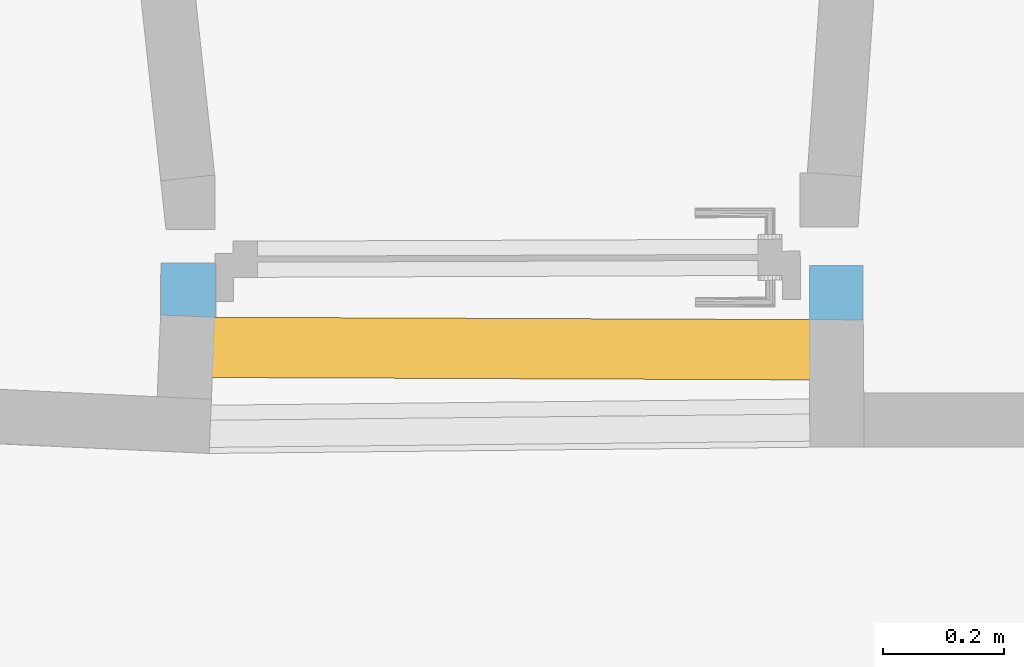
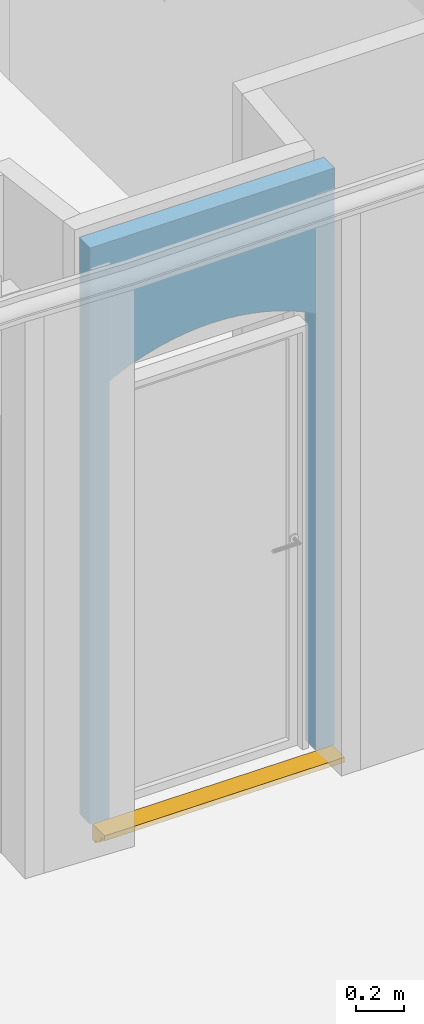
# One storey, part 92 of 133: 1 window, 1 opening, plus 1 element that does not belong to this part.
"""IFC2X3 building model written with IfcOpenShell, lengths in centimetres."""

import ifcopenshell
import ifcopenshell.guid

model = None  # the IFC model being written
_history = None  # IfcOwnerHistory: only IFC2X3 demands one
_inside = {}  # id of a spatial element -> (the spatial element, [elements in it])
_under = {}  # id of a project, library or spatial element -> (it, [spatial elements below it])
_declared = {}  # id of a project -> (the project, [libraries it declares])
_typed = {}  # id of a type object -> (the type object, [elements of that type])
_made_of = {}  # id of a material, layer set ... -> (it, [elements and type objects made of it])


def new_model(schema):
    """Start an empty IFC model of exactly this schema.

    Asked for "IFC4X3", IfcOpenShell would pick the latest addendum, in which some entities
    have other attributes; the version numbers below select the first issue.
    IFC2X3 requires an IfcOwnerHistory on every rooted entity: one is made here for all.
    """
    global model, _history
    if schema == "IFC4X3":
        model = ifcopenshell.file(schema_version=(4, 3, 0, 0))
    else:
        model = ifcopenshell.file(schema=schema)
    _inside.clear()
    _under.clear()
    _declared.clear()
    _typed.clear()
    _made_of.clear()
    _history = None
    if model.schema == "IFC2X3":
        org = make("IfcOrganization", Name="unknown")
        user = make(
            "IfcPersonAndOrganization",
            ThePerson=make("IfcPerson", FamilyName="unknown"),
            TheOrganization=org,
        )
        app = make(
            "IfcApplication",
            ApplicationDeveloper=org,
            Version="unknown",
            ApplicationFullName="unknown",
            ApplicationIdentifier="unknown",
        )
        _history = make(
            "IfcOwnerHistory",
            OwningUser=user,
            OwningApplication=app,
            ChangeAction="ADDED",
            CreationDate=0,
        )
    return model


def make(cls, **values):
    """One entity of the class cls with the attributes given. An attribute that is None is left unset."""
    return model.create_entity(
        cls, **{name: value for name, value in values.items() if value is not None}
    )


def entity(cls, *values):
    """Any entity or typed value of the class cls, its attributes in the order of the schema. None: left unset."""
    e = model.create_entity(cls)
    for i, value in enumerate(values):
        if value is not None:
            e[i] = value
    return e


def rooted(cls, **values):
    """An entity with a GlobalId (a new one), such as an element, a storey or a relation."""
    return make(cls, GlobalId=ifcopenshell.guid.new(), OwnerHistory=_history, **values)


def si_unit(unit_type, name, prefix=None):
    """IfcSIUnit, for example si_unit("LENGTHUNIT", "METRE", prefix="MILLI")."""
    return make("IfcSIUnit", UnitType=unit_type, Prefix=prefix, Name=name)


def converted_unit(unit_type, name, factor, base, dimensions=None, offset=None):
    """IfcConversionBasedUnit, such as the inch: factor (a typed value) times the base unit."""
    return make(
        "IfcConversionBasedUnit"
        if offset is None
        else "IfcConversionBasedUnitWithOffset",
        ConversionOffset=offset,
        Dimensions=None
        if dimensions is None
        else entity("IfcDimensionalExponents", *dimensions),
        UnitType=unit_type,
        Name=name,
        ConversionFactor=make(
            "IfcMeasureWithUnit", ValueComponent=factor, UnitComponent=base
        ),
    )


def assignment(units):
    """IfcUnitAssignment: the units of a project."""
    return None if units is None else make("IfcUnitAssignment", Units=units)


def point(xyz):
    """IfcCartesianPoint."""
    return None if xyz is None else make("IfcCartesianPoint", Coordinates=xyz)


def direction(xyz):
    """IfcDirection."""
    return None if xyz is None else make("IfcDirection", DirectionRatios=xyz)


def frame(location, z_axis=None, x_axis=None):
    """IfcAxis2Placement3D, a coordinate frame: its origin and axes. An axis left out is left unset."""
    return make(
        "IfcAxis2Placement3D",
        Location=point(location),
        Axis=direction(z_axis),
        RefDirection=direction(x_axis),
    )


def frame_2d(location, x_axis=None):
    """IfcAxis2Placement2D, a coordinate frame in the plane: its origin and x axis."""
    return make(
        "IfcAxis2Placement2D", Location=point(location), RefDirection=direction(x_axis)
    )


def origin():
    """The frame at (0, 0, 0) with its axes left unset."""
    return frame((0.0, 0.0, 0.0))


def origin_with_axes():
    """The frame at (0, 0, 0) with the z axis (0, 0, 1) and the x axis (1, 0, 0) written out."""
    return frame((0.0, 0.0, 0.0), z_axis=(0.0, 0.0, 1.0), x_axis=(1.0, 0.0, 0.0))


def origin_2d_with_axis():
    """The frame at (0, 0) in the plane with the x axis (1, 0) written out."""
    return frame_2d((0.0, 0.0), x_axis=(1.0, 0.0))


def place(relative_to, where):
    """IfcLocalPlacement: puts the frame where relative to a parent placement (None: the world)."""
    return make(
        "IfcLocalPlacement", PlacementRelTo=relative_to, RelativePlacement=where
    )


def context(
    kind, dimensions, precision=None, world=None, true_north=None, identifier=None
):
    """IfcGeometricRepresentationContext, for example the 3D "Model" context."""
    return make(
        "IfcGeometricRepresentationContext",
        ContextIdentifier=identifier,
        ContextType=kind,
        CoordinateSpaceDimension=dimensions,
        Precision=precision,
        WorldCoordinateSystem=world,
        TrueNorth=true_north,
    )


def subcontext(parent, identifier, kind, view, scale=None):
    """IfcGeometricRepresentationSubContext, for example "Body" below "Model"."""
    return make(
        "IfcGeometricRepresentationSubContext",
        ContextIdentifier=identifier,
        ContextType=kind,
        ParentContext=parent,
        TargetScale=scale,
        TargetView=view,
    )


def project(units=None, contexts=None):
    """IfcProject with its units and contexts."""
    return rooted(
        "IfcProject",
        Name="project",
        RepresentationContexts=contexts,
        UnitsInContext=assignment(units),
    )


def spatial(cls, under=None, at=None, **own):
    """A site, building, storey or space (cls), placed at a placement, below another one or the project."""
    s = rooted(cls, ObjectPlacement=at, **own)
    if under is not None:
        _under.setdefault(under.id(), (under, []))[1].append(s)
    return s


def polyline(points):
    """IfcPolyline through the points."""
    return make("IfcPolyline", Points=[point(p) for p in points])


def circle_curve(where, radius):
    """IfcCircle in the frame where."""
    return make("IfcCircle", Position=where, Radius=radius)


def trimmed(basis, trim1, trim2, sense, master):
    """IfcTrimmedCurve: the piece of a basis curve between two trims."""
    return make(
        "IfcTrimmedCurve",
        BasisCurve=basis,
        Trim1=trim1,
        Trim2=trim2,
        SenseAgreement=sense,
        MasterRepresentation=master,
    )


def segment(curve, same_sense, transition):
    """IfcCompositeCurveSegment."""
    return make(
        "IfcCompositeCurveSegment",
        Transition=transition,
        SameSense=same_sense,
        ParentCurve=curve,
    )


def composite_curve(segments, self_intersect=None):
    """IfcCompositeCurve: segments joined end to end."""
    return make("IfcCompositeCurve", Segments=segments, SelfIntersect=self_intersect)


def profile(cls, at=None, kind="AREA", **sizes):
    """A parametric profile (cls). Its sizes go by their IFC names, for example OverallWidth=200.0."""
    return make(cls, ProfileType=kind, Position=at, **sizes)


def rectangle(**sizes):
    """IfcRectangleProfileDef."""
    return profile("IfcRectangleProfileDef", **sizes)


def outline(outer, holes=None, kind="AREA"):
    """IfcArbitraryClosedProfileDef: a profile drawn as a closed curve; with holes, ...WithVoids."""
    if holes is None:
        return make("IfcArbitraryClosedProfileDef", ProfileType=kind, OuterCurve=outer)
    return make(
        "IfcArbitraryProfileDefWithVoids",
        ProfileType=kind,
        OuterCurve=outer,
        InnerCurves=holes,
    )


def extrude(swept, where, along, depth):
    """IfcExtrudedAreaSolid: the profile swept, set in the frame where, extruded along a direction by depth."""
    return make(
        "IfcExtrudedAreaSolid",
        SweptArea=swept,
        Position=where,
        ExtrudedDirection=direction(along),
        Depth=depth,
    )


def clip(a, b, op="DIFFERENCE"):
    """IfcBooleanClippingResult: the solid a cut by the half space b."""
    return make(
        "IfcBooleanClippingResult", Operator=op, FirstOperand=a, SecondOperand=b
    )


def bounded_halfspace(plane, agree, where, boundary):
    """IfcPolygonalBoundedHalfSpace: a half space limited to a polygon's prism."""
    return make(
        "IfcPolygonalBoundedHalfSpace",
        BaseSurface=make("IfcPlane", Position=plane),
        AgreementFlag=agree,
        Position=where,
        PolygonalBoundary=boundary,
    )


def faces_of(points, faces, orient=None, outer=None):
    """IfcFace entities. A face is a list of loops; a loop is a list of indices into points, from 0.

    orient and outer hold one flag for each loop. By default every Orientation is true, the
    first loop of a face is its IfcFaceOuterBound and the others are IfcFaceBound.
    """
    made = []
    for i, loops in enumerate(faces):
        bounds = []
        for j, loop in enumerate(loops):
            is_outer = j == 0 if outer is None else outer[i][j]
            bounds.append(
                make(
                    "IfcFaceOuterBound" if is_outer else "IfcFaceBound",
                    Bound=make("IfcPolyLoop", Polygon=[points[k] for k in loop]),
                    Orientation=True if orient is None else orient[i][j],
                )
            )
        made.append(make("IfcFace", Bounds=bounds))
    return made


def faceted_brep(points, faces, orient=None, outer=None, voids=None):
    """IfcFacetedBrep: a solid bounded by flat faces; with voids (closed shells), ...WithVoids."""
    shared = [point(p) for p in points]
    hull = make("IfcClosedShell", CfsFaces=faces_of(shared, faces, orient, outer))
    if voids is None:
        return make("IfcFacetedBrep", Outer=hull)
    return make(
        "IfcFacetedBrepWithVoids",
        Outer=hull,
        Voids=[
            make(cls, CfsFaces=faces_of(shared, fs, o, b)) for cls, fs, o, b in voids
        ],
    )


def shape(context_of_items, identifier, shape_type, items):
    """IfcShapeRepresentation: the items that make up one representation, for example the "Body"."""
    return make(
        "IfcShapeRepresentation",
        ContextOfItems=context_of_items,
        RepresentationIdentifier=identifier,
        RepresentationType=shape_type,
        Items=items,
    )


def source(mapping_origin, context_of_items, identifier, shape_type, items):
    """IfcRepresentationMap: a shape defined once, which mapped items show again and again."""
    return make(
        "IfcRepresentationMap",
        MappingOrigin=mapping_origin,
        MappedRepresentation=shape(context_of_items, identifier, shape_type, items),
    )


def transform(
    local_origin,
    x_axis=None,
    y_axis=None,
    z_axis=None,
    scale=None,
    scale2=None,
    scale3=None,
    uniform=True,
):
    """IfcCartesianTransformationOperator3D, or its non-uniform kind. x_axis, y_axis, z_axis: its Axis1, 2, 3."""
    if uniform:
        return make(
            "IfcCartesianTransformationOperator3D",
            Axis1=direction(x_axis),
            Axis2=direction(y_axis),
            LocalOrigin=point(local_origin),
            Scale=scale,
            Axis3=direction(z_axis),
        )
    return make(
        "IfcCartesianTransformationOperator3DnonUniform",
        Axis1=direction(x_axis),
        Axis2=direction(y_axis),
        LocalOrigin=point(local_origin),
        Scale=scale,
        Axis3=direction(z_axis),
        Scale2=scale2,
        Scale3=scale3,
    )


def mapped(mapping_source, mapping_target):
    """IfcMappedItem: shows the shape of a source again, moved by a transform."""
    return make(
        "IfcMappedItem", MappingSource=mapping_source, MappingTarget=mapping_target
    )


def material(Name=None, Category=None):
    """IfcMaterial."""
    return make("IfcMaterial", Name=Name, Category=Category)


def layer(
    of_material, thickness, ventilated=None, Name=None, Category=None, Priority=None
):
    """IfcMaterialLayer: one layer of a wall or slab, of a material (None: an air gap)."""
    return make(
        "IfcMaterialLayer",
        Material=of_material,
        LayerThickness=thickness,
        IsVentilated=ventilated,
        Name=Name,
        Category=Category,
        Priority=Priority,
    )


def layer_set(layers, Name=None):
    """IfcMaterialLayerSet."""
    return make("IfcMaterialLayerSet", MaterialLayers=layers, LayerSetName=Name)


def layer_usage(for_layer_set, set_direction, sense, offset, extent=None):
    """IfcMaterialLayerSetUsage: how a layer set lies in its element."""
    return make(
        "IfcMaterialLayerSetUsage",
        ForLayerSet=for_layer_set,
        LayerSetDirection=set_direction,
        DirectionSense=sense,
        OffsetFromReferenceLine=offset,
        ReferenceExtent=extent,
    )


def made_of(thing, what):
    """Note that an element or type object is made of a material, layer set ...; save() writes the relation."""
    if what is not None:
        _made_of.setdefault(what.id(), (what, []))[1].append(thing)
    return thing


def type_object(cls, material=None, **own):
    """A type object (cls), such as IfcWallType, which elements share."""
    return made_of(rooted(cls, **own), material)


def element(
    cls,
    number,
    at=None,
    inside=None,
    cuts=None,
    type_object=None,
    material=None,
    context=None,
    identifier="Body",
    shape_type=None,
    held_by="IfcProductDefinitionShape",
    body=None,
    shapes=None,
    **own,
):
    """One element of the class cls, such as IfcWall. Its Tag is "e" and its number.

    at: its placement. inside: the storey or other place that contains it. cuts: it is an
    opening in that element (IfcRelVoidsElement). A single representation is given by context,
    identifier, shape_type and body (its items); several are given by shapes. held_by: the class
    of the entity that holds the representations. save() writes the other relations.
    """
    e = rooted(cls, Tag="e%d" % number, ObjectPlacement=at, **own)
    if body is not None:
        shapes = [shape(context, identifier, shape_type, body)]
    if shapes is not None:
        e.Representation = make(held_by, Representations=shapes)
    if inside is not None:
        _inside.setdefault(inside.id(), (inside, []))[1].append(e)
    if cuts is not None:
        rooted(
            "IfcRelVoidsElement", RelatingBuildingElement=cuts, RelatedOpeningElement=e
        )
    if type_object is not None:
        _typed.setdefault(type_object.id(), (type_object, []))[1].append(e)
    return made_of(e, material)


def fill(opening, filler):
    """IfcRelFillsElement: the door or window that sits in an opening."""
    return rooted(
        "IfcRelFillsElement",
        RelatingOpeningElement=opening,
        RelatedBuildingElement=filler,
    )


def aggregate(whole, parts):
    """IfcRelAggregates: a whole, such as a stair, and the parts it consists of."""
    return rooted("IfcRelAggregates", RelatingObject=whole, RelatedObjects=parts)


def save(model, path):
    """Write the relations noted so far, then the file.

    IfcRelAggregates (storeys below a building ...), IfcRelContainedInSpatialStructure (elements
    in a storey), IfcRelDefinesByType, IfcRelAssociatesMaterial and IfcRelDeclares: one each for
    every whole, place, type object, material and project.
    """
    for whole, parts in _under.values():
        aggregate(whole, parts)
    for where, things in _inside.values():
        rooted(
            "IfcRelContainedInSpatialStructure",
            RelatedElements=things,
            RelatingStructure=where,
        )
    for kind, things in _typed.values():
        rooted("IfcRelDefinesByType", RelatedObjects=things, RelatingType=kind)
    for what, things in _made_of.values():
        rooted("IfcRelAssociatesMaterial", RelatedObjects=things, RelatingMaterial=what)
    for by, libraries in _declared.values():
        rooted("IfcRelDeclares", RelatingContext=by, RelatedDefinitions=libraries)
    model.write(path)


model = new_model("IFC2X3")

# Units and contexts
model_context = context("Model", 3, precision=0.0001, world=origin(), true_north=direction((0.225632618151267, 0.974212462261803, 0.0)))
body_context = subcontext(model_context, "Body", "Model", "MODEL_VIEW")
footprint_context = subcontext(model_context, "FootPrint", "Model", "MODEL_VIEW")
profile_context = subcontext(model_context, "Profile", "Model", "MODEL_VIEW")
ifc_project = project(units=[si_unit("LENGTHUNIT", "METRE", prefix="CENTI"), si_unit("AREAUNIT", "SQUARE_METRE", prefix="CENTI"), si_unit("VOLUMEUNIT", "CUBIC_METRE", prefix="CENTI"), converted_unit("PLANEANGLEUNIT", "DEGREE", entity("IfcRatioMeasure", 0.0174532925), si_unit("PLANEANGLEUNIT", "RADIAN"), dimensions=[0, 0, 0, 0, 0, 0, 0])], contexts=[model_context])

# Site, building, storey
site_placement = place(None, origin_with_axes())
site = spatial("IfcSite", under=ifc_project, at=site_placement, Name="Default Site", CompositionType="ELEMENT")
building_placement = place(site_placement, origin_with_axes())
building = spatial("IfcBuilding", under=site, at=building_placement, Name="Default Building", CompositionType="ELEMENT")
storey_placement = place(building_placement, frame((0.0, 0.0, -291.400371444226), z_axis=(0.0, 0.0, 1.0), x_axis=(1.0, 0.0, 0.0)))
storey = spatial("IfcBuildingStorey", under=building, at=storey_placement, Name="Rez-de-Jardin", CompositionType="ELEMENT", Elevation=-291.400371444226)

# Wall, opening, window
ifc_material_1 = material(Name="<aucun>")
ifc_layer = layer(ifc_material_1, 9.0)
ifc_layer_set = layer_set([ifc_layer], Name="default")
ifc_layer_usage = layer_usage(ifc_layer_set, "AXIS2", "POSITIVE", -4.5)
wall_type = type_object("IfcWallType", Name="default 90", PredefinedType="NOTDEFINED", material=ifc_layer_set)
wall_placement = place(storey_placement, frame((700.492501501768, -1030.67750895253, -1.94511073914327e-11), z_axis=(0.0, 0.0, 1.0), x_axis=(-0.999992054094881, 0.00398644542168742, 0.0)))
wall = element("IfcWallStandardCase", 1, at=wall_placement, inside=storey, type_object=wall_type, material=ifc_layer_usage, Name="Enveloppe 229437", context=body_context, shape_type="Clipping", body=[
    clip(clip(clip(extrude(rectangle(XDim=9.0004154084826, YDim=116.551128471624, at=origin_2d_with_axis()), frame((58.2756606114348, -0.000207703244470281, 8.88178419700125e-14), z_axis=(0.0, 0.0, 1.0), x_axis=(-2.10478317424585e-05, -0.999999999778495, 0.0)), (0.0, 0.0, 1.0), 291.413221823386), bounded_halfspace(frame((107.550303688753, 4.49999999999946, 281.400371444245), z_axis=(0.0, 0.0, 1.0), x_axis=(1.0, -1.46480050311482e-14, 0.0)), True, frame((107.550303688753, 4.49999999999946, 281.400371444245), z_axis=(0.0, 0.0, 1.0), x_axis=(1.0, 0.0, 0.0)), polyline([(0.0, -1.77635683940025e-13), (9.00101587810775, -3.5527136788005e-13), (8.99356265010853, -0.340339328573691), (0.0, -1.77635683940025e-13)]))), bounded_halfspace(frame((0.0, 4.49999999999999, 281.400371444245), z_axis=(0.0, 0.0, 1.0), x_axis=(0.0115776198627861, -0.999932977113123, 0.0)), True, frame((0.0, 4.49999999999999, 281.400371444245), z_axis=(0.0, 0.0, 1.0), x_axis=(1.0, 0.0, 0.0)), polyline([(0.0, -9.00000000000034), (0.0, 0.0), (0.104205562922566, -9.00000000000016), (0.0, -9.00000000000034)]))), bounded_halfspace(frame((116.551319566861, -4.50000000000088, 281.400371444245), z_axis=(0.0, 0.0, 1.0), x_axis=(-1.0, 7.66565630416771e-14, 0.0)), True, frame((116.551319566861, -4.50000000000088, 281.400371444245), z_axis=(0.0, 0.0, 1.0), x_axis=(1.0, 0.0, 0.0)), polyline([(-0.335156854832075, -3.5527136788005e-13), (-0.00745322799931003, 8.65966067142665), (0.0, -3.5527136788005e-13), (-0.335156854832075, -3.5527136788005e-13)]))),
])
opening_placement = place(wall_placement, frame((8.91314601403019, -2.27373675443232e-13, 1.94506633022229e-11), z_axis=(0.0, 0.0, 1.0), x_axis=(-1.0, 4.79304096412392e-15, 0.0)))
cartesian_point_1 = entity("IfcCartesianPoint", [1.77635683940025e-13, -1.77635683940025e-13, 220.924770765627])
cartesian_point_2 = entity("IfcCartesianPoint", [-98.4571234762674, 0.0, 220.924770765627])
cartesian_point_3 = entity("IfcCartesianPoint", [-98.4571234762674, -4.50000000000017])
opening = element("IfcOpeningElement", 2, at=opening_placement, cuts=wall, Name="4294966552_12", ObjectType="Opening", shapes=[
    shape(body_context, "Body", "SweptSolid", [extrude(outline(composite_curve([segment(polyline([(-1.77635683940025e-13, 220.924770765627), (-1.77635683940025e-13, -4.44089209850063e-14), (98.4571234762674, -4.44089209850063e-14), (98.4571234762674, 220.924770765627)]), True, "CONTINUOUS"), segment(trimmed(circle_curve(frame_2d((49.2285617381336, 130.081216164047), x_axis=(1.0, 0.0)), 103.32474390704), [point((98.4571234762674, 220.924770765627))], [point((-1.77635683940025e-13, 220.924770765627))], True, "CARTESIAN"), True, "CONTINUOUS")], self_intersect=False)), frame((0.0, -14.5, 0.0), z_axis=(0.0, 1.0, 0.0), x_axis=(-1.0, 0.0, 0.0)), (0.0, 0.0, 1.0), 29.0)]),
    shape(profile_context, "Profile", "GeometricCurveSet", [entity("IfcGeometricCurveSet", [entity("IfcCompositeCurve", [entity("IfcCompositeCurveSegment", "CONTINUOUS", True, entity("IfcPolyline", [cartesian_point_1, entity("IfcCartesianPoint", [1.77635683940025e-13, -1.77635683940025e-13, -4.44089209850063e-14]), entity("IfcCartesianPoint", [-98.4571234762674, 0.0, -4.44089209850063e-14]), cartesian_point_2])), entity("IfcCompositeCurveSegment", "CONTINUOUS", True, entity("IfcTrimmedCurve", entity("IfcCircle", entity("IfcAxis2Placement3D", entity("IfcCartesianPoint", [-49.2285617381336, 0.0, 130.081216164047]), entity("IfcDirection", [1.8041933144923e-15, 1.0, -7.11613611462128e-15]), entity("IfcDirection", [1.0, -1.8041933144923e-15, 0.0])), 103.32474390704), [cartesian_point_2], [cartesian_point_1], True, "CARTESIAN"))], False)])]),
    shape(footprint_context, "FootPrint", "GeometricCurveSet", [entity("IfcGeometricCurveSet", [entity("IfcPolyline", [cartesian_point_3, entity("IfcCartesianPoint", [1.77635683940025e-13, -4.50000000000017]), entity("IfcCartesianPoint", [1.77635683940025e-13, 4.50000000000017]), entity("IfcCartesianPoint", [-98.4571234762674, 4.49999999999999]), cartesian_point_3])])]),
])
ifc_material_2 = material(Name="Brèche oniciata")
window_style = type_object("IfcWindowStyle", Name="Default Style Name", ConstructionType="NOTDEFINED", OperationType="NOTDEFINED", ParameterTakesPrecedence=False, Sizeable=True)
shared_shape = source(origin_with_axes(), body_context, "Body", "Brep", [
    faceted_brep([(57.2285175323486, 0.0, -4.50001321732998), (57.2285175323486, 0.0, -14.5000353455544), (-57.2285711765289, 0.0, -14.4999966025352), (-57.2285711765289, 0.0, -4.49997410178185), (57.2285175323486, -2.50000953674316, -14.5000353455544), (-57.2285711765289, -2.50000953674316, -14.5000353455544), (-57.2285711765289, 0.0, -14.5000353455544), (57.2285532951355, -2.50000953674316, -11.5000389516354), (-57.2285830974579, -2.50000953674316, -11.4999994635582), (-57.2285711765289, -2.50000953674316, -14.4999966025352), (57.2285175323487, -3.37791771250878, -11.4135725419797), (-57.2285711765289, -3.37792149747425, -11.4135722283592), (-57.2285830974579, -2.50001339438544, -11.5000386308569), (57.2285175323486, -3.37791442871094, -11.4135392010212), (57.2285354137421, -4.22207956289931, -11.1574645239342), (-57.2285950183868, -4.22209054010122, -11.1574612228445), (-57.2285711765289, -3.37792519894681, -11.4135359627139), (57.2285354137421, -4.22208309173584, -11.15747615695), (57.2285294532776, -5.00009177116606, -10.7416218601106), (-57.2286069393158, -5.0000682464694, -10.7416344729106), (-57.2285950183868, -4.22209952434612, -11.1574674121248), (57.2285294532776, -5.00006675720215, -10.7415750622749), (57.2285175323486, -5.68198145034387, -10.1819421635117), (-57.228571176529, -5.68195370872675, -10.1819649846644), (-57.2286069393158, -5.00003901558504, -10.7415978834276), (57.2285175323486, -5.68199157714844, -10.1819545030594), (57.2285175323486, -6.24161149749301, -9.50005572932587), (-57.2285711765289, -6.24163049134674, -9.50003257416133), (-57.2285711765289, -5.68196380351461, -10.1819883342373), (57.2285175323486, -6.24163150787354, -9.5000721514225), (57.2285175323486, -6.65748147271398, -8.72207157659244), (-57.2285711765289, -6.65745824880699, -8.7221150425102), (-57.2285711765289, -6.24164762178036, -9.50004202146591), (57.2285175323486, -6.65745735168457, -8.7220586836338), (57.228547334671, -6.91351593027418, -7.87794670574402), (-57.2285890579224, -6.9135269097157, -7.87791054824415), (-57.2285711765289, -6.65744183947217, -8.72210985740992), (57.228547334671, -6.91354274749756, -7.8779548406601), (57.2285175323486, -7.00001429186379, -6.99999453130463), (-57.2285711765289, -7.00000877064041, -7.00005061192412), (-57.2285890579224, -6.91354660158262, -7.87791573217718), (57.2285175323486, -7.0000171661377, -6.9999948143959), (57.2285175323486, -8.00001621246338, -6.9999948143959), (-57.2285711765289, -8.00001621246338, -6.9999948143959), (-57.2285711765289, -7.0000171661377, -6.9999948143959), (57.2285175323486, -8.00001621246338, -4.50001321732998), (-57.2285711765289, -8.00001621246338, -4.49997410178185), (-57.2285711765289, -8.00001621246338, -7.00005143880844), (-57.2285711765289, 0.0, -4.50001321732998), (-57.2285711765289, -8.00001621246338, -4.50001321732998), (-57.2285711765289, -2.50000953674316, -11.4999994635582), (-57.2285711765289, -3.37791442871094, -11.4135004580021), (-57.2285711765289, -4.22208309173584, -11.1574366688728), (-57.2285711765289, -5.00006675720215, -10.7416316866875), (-57.2285711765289, -5.68199157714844, -10.1820111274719), (-57.2285711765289, -6.24163150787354, -9.5000334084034), (-57.2285711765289, -6.65745735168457, -8.72211456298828), (-57.2285711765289, -6.91354274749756, -7.87791535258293), (-57.2285711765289, -7.0000171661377, -7.00005143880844), (57.2285175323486, -6.91354274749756, -7.8779548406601), (57.2285175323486, -5.00006675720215, -10.7415750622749), (57.2285175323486, -4.22208309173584, -11.15747615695), (57.2285175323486, -2.50000953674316, -11.5000389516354)], [[[0, 1, 2, 3]], [[1, 4, 5, 6]], [[4, 7, 8, 9]], [[7, 10, 11, 12]], [[13, 14, 15, 16]], [[17, 18, 19, 20]], [[21, 22, 23, 24]], [[25, 26, 27, 28]], [[29, 30, 31, 32]], [[33, 34, 35, 36]], [[37, 38, 39, 40]], [[41, 42, 43, 44]], [[42, 45, 46, 47]], [[45, 0, 48, 49]], [[3, 2, 9, 50, 51, 52, 53, 54, 55, 56, 57, 58, 47, 46]], [[45, 42, 41, 59, 33, 29, 25, 60, 61, 13, 62, 4, 1, 0]]]),
])
window_placement = place(opening_placement, frame((0.0, 0.0, -4.44089209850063e-16), z_axis=(0.0, 0.0, 1.0), x_axis=(1.0, 0.0, 0.0)))
window = element("IfcWindow", 3, at=window_placement, inside=storey, type_object=window_style, material=ifc_material_2, Name="Baie 230324", ObjectType="Opening", context=body_context, shape_type="MappedRepresentation", body=[
    mapped(shared_shape, transform((-49.2285617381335, 0.0, 4.44089209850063e-14), x_axis=(-1.0, 0.0, 0.0), y_axis=(0.0, 0.0, 1.0), z_axis=(0.0, 1.0, 0.0), scale=1.0, scale2=1.0, scale3=1.0, uniform=False)),
])
fill(opening, window)

save(model, "model.ifc")
